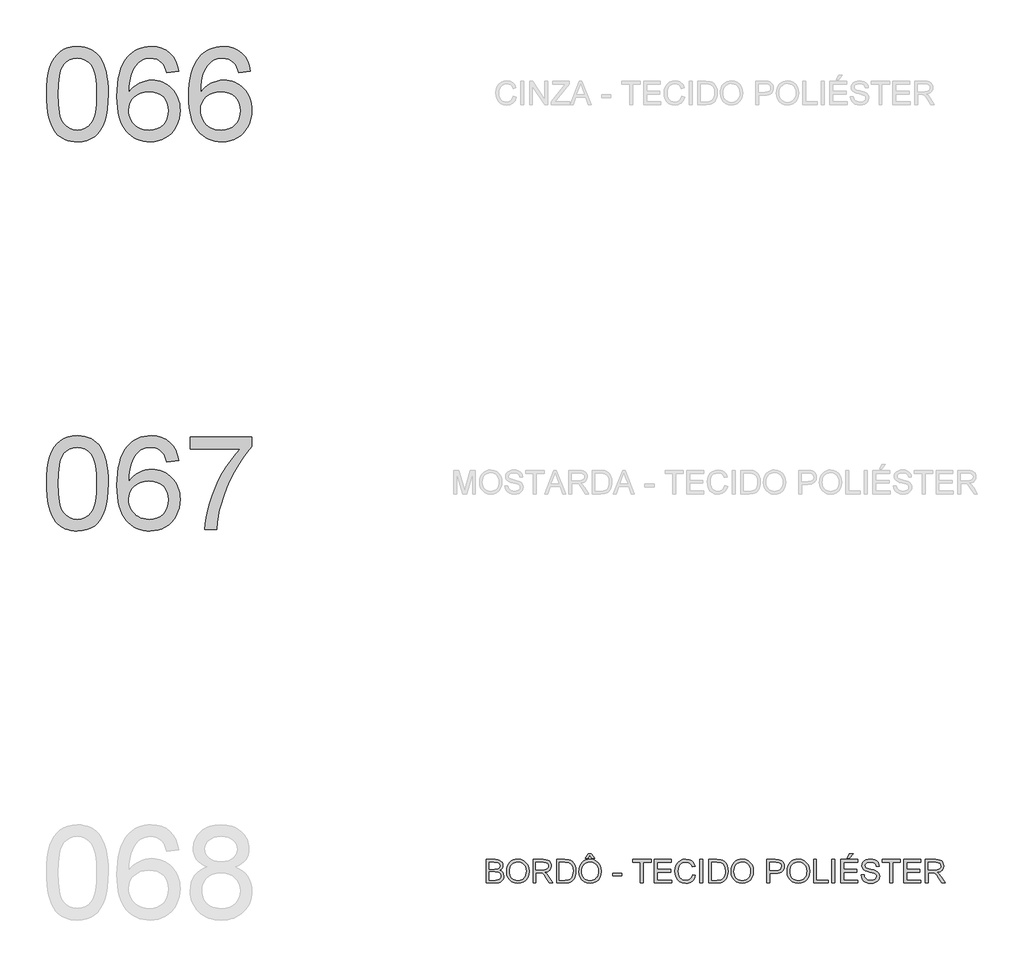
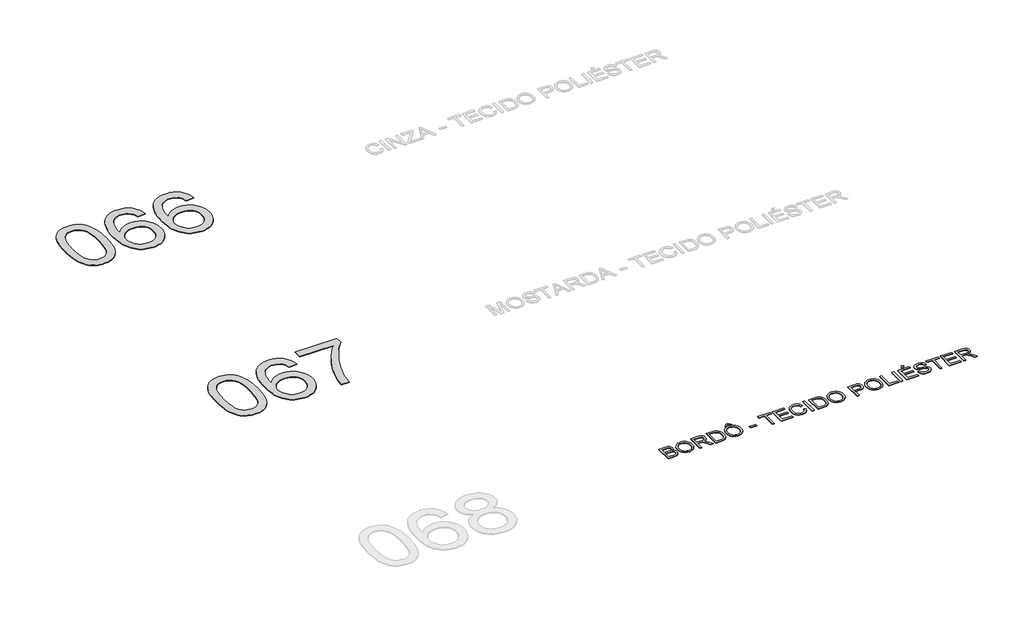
# One storey, part 35 of 67: 3 proxies.
"""IFC4 building model written with IfcOpenShell, lengths in millimetres."""

from ifc_helpers import new_model, si_unit, origin, origin_with_axes, place, context, project, spatial, polyline, outline, extrude, element, save

model = new_model("IFC4")

# Units and contexts
model_context = context("Model", 3, world=origin())
ifc_project = project(units=[si_unit("LENGTHUNIT", "METRE", prefix="MILLI")], contexts=[model_context])

# Site, building, storey
site = spatial("IfcSite", under=ifc_project)
building = spatial("IfcBuilding", under=site)
storey = spatial("IfcBuildingStorey", under=building, Name="Marelli - Linha COLAB - Planta Baixa", Elevation=0.0)

# Proxies
placement = place(None, origin())
element("IfcBuildingElementProxy", 1, Name="1200mm Arial", ObjectType="1200mm Arial", at=placement, inside=storey, context=model_context, shape_type="SweptSolid", body=[
    extrude(outline(polyline([(-181.1313792, -82395.792664), (-178.3630672, -82294.4319773), (-170.0581311, -82202.8385576), (-156.2165711, -82121.0124048), (-136.838387, -82048.953519), (-112.0063523, -81986.073289), (-81.8032405, -81931.7831035), (-46.2290516, -81886.0829627), (-5.2837855, -81848.9728664), (41.1705134, -81820.2596767), (93.271801, -81799.7502555), (151.0200772, -81787.4446027), (214.415342, -81783.3427185), (262.0560604, -81785.7707396), (307.2687576, -81793.0548031), (350.0534336, -81805.194909), (390.4100885, -81822.1910572), (427.3638349, -81843.7581391), (459.9397856, -81869.6110463), (488.1379405, -81899.7497788), (511.9582997, -81934.1743365), (532.5964796, -81972.7467637), (551.2480968, -82015.3291046), (582.5916428, -82112.5235278), (594.5662017, -82169.6831928), (603.1194581, -82235.9479371), (608.2514119, -82311.3177609), (609.9620632, -82395.792664), (607.2213424, -82496.5095573), (598.9991798, -82587.6431245), (585.2955754, -82669.1933658), (566.1105294, -82741.1602811), (541.4716328, -82804.0681023), (511.4064767, -82858.4410612), (475.9150612, -82904.2791578), (434.9973863, -82941.5823921), (388.4879051, -82970.4887199), (336.2210706, -82991.1360968), (278.1968829, -83003.524523), (214.415342, -83007.6539984), (171.7410306, -83005.8605737), (131.4211639, -83000.4802995), (93.455742, -82991.5131759), (57.8447649, -82978.9592028), (24.5882325, -82962.8183803), (-6.3138551, -82943.0907083), (-34.8614979, -82919.7761868), (-61.054696, -82892.8748159), (-89.1976686, -82850.2786794), (-113.5882449, -82802.0999336), (-134.2264248, -82748.3385785), (-151.1122084, -82688.9946142), (-164.2455956, -82624.0680406), (-173.6265865, -82553.5588577), (-179.255181, -82477.4670655), (-181.1313792, -82395.792664)]), holes=[polyline([(-30.446914, -82395.4983584), (-26.03233, -82526.4919399), (-12.7885782, -82632.5247279), (-2.8557643, -82676.1808245), (9.2843415, -82713.5967226), (23.6317393, -82744.7724225), (40.1864291, -82769.7079239), (77.5632398, -82807.884878), (119.0603289, -82835.1541309), (164.6776963, -82851.5156826), (214.415342, -82856.9695332), (264.1529878, -82851.4972885), (309.7703552, -82835.0805545), (351.2674442, -82807.7193311), (388.6442549, -82769.4136183), (405.1989447, -82744.418336), (419.5463425, -82713.2104465), (431.6864484, -82675.7899498), (441.6192622, -82632.1568459), (454.8630141, -82526.2528166), (459.277598, -82395.4983584), (455.0101669, -82267.9720648), (442.2078734, -82163.8062779), (432.6061533, -82120.4835744), (420.8707177, -82083.0009976), (407.0015665, -82051.3585475), (390.9986997, -82025.5562241), (354.2472884, -81985.5122689), (312.2719527, -81956.9094438), (265.0726927, -81939.7477487), (212.6495084, -81934.0271837), (163.1693801, -81939.067167), (118.3245649, -81954.187117), (78.1150628, -81979.3870337), (42.5408739, -82014.666917), (25.4343611, -82043.2145599), (10.6087167, -82077.2068562), (-1.9360594, -82116.6438061), (-12.199967, -82161.5254095), (-25.8851772, -82267.6225769), (-30.446914, -82395.4983584)])]), origin_with_axes(), (0.0, 0.0, 1.0), 10.0),
    extrude(outline(polyline([(1514.0688546, -82103.5472071), (1363.3843893, -82122.3827652), (1352.3111413, -82082.0812927), (1339.1041777, -82047.7027202), (1323.7634985, -82019.2470479), (1306.2891037, -81996.7142757), (1273.897094, -81969.2886729), (1237.936629, -81949.6989567), (1198.4077086, -81937.9451269), (1155.3103329, -81934.0271837), (1119.7729321, -81936.3080521), (1085.265601, -81943.1506572), (1051.7883394, -81954.554999), (1019.3411475, -81970.5210776), (989.7358439, -81996.6315022), (962.7241084, -82028.1681863), (938.305941, -82065.1311297), (916.4813416, -82107.5203326), (898.4091386, -82158.1316981), (885.2481602, -82219.7611293), (876.9984065, -82292.4086263), (873.6598774, -82376.0741891), (902.3822641, -82338.2099347), (934.1028892, -82305.5512106), (968.8217525, -82278.0980167), (1006.538854, -82255.8503531), (1046.2425184, -82238.6610669), (1086.92107, -82226.3830053), (1128.5745089, -82219.0161683), (1171.2028351, -82216.560556), (1208.1013992, -82218.2390176), (1243.6020117, -82223.2744024), (1277.7046727, -82231.6667104), (1310.409382, -82243.4159416), (1341.7161398, -82258.5220961), (1371.624946, -82276.9851737), (1400.1358007, -82298.8051745), (1427.2487037, -82323.9820986), (1452.0117605, -82351.81697), (1473.4730764, -82381.6108131), (1491.6326514, -82413.3636278), (1506.4904855, -82447.0754142), (1518.0465786, -82482.7461721), (1526.3009309, -82520.3759017), (1531.2535423, -82559.9646029), (1532.9044127, -82601.5122757), (1529.7958099, -82656.4462547), (1520.4700013, -82709.4120649), (1504.926987, -82760.4097065), (1483.166767, -82809.4391794), (1455.9618934, -82854.6702707), (1424.0849186, -82894.2727675), (1387.5358423, -82928.2466698), (1346.3146648, -82956.5919775), (1301.3043027, -82978.9316116), (1253.3876728, -82994.8884932), (1202.5647752, -83004.4626221), (1148.8356098, -83007.6539984), (1102.8342655, -83005.5386769), (1059.0080236, -82999.1927125), (1017.3568839, -82988.6161052), (977.8808466, -82973.8088549), (940.5799116, -82954.7709616), (905.4540788, -82931.5024254), (872.5033483, -82904.0032463), (841.7277202, -82872.2734242), (813.895148, -82835.6875598), (789.7735854, -82793.6202536), (769.3630325, -82746.0715057), (752.6634892, -82693.0413161), (739.6749555, -82634.5296848), (730.3974314, -82570.5366117), (724.830917, -82501.062097), (722.9754121, -82426.1061404), (725.0355513, -82342.1784618), (731.2159688, -82264.1828803), (741.5166647, -82192.1193959), (755.9376389, -82125.9880088), (774.4788915, -82065.7887188), (797.1404224, -82011.521526), (823.9222316, -81963.1864303), (854.8243192, -81920.7834319), (884.8388915, -81888.5707647), (917.3458643, -81860.6531198), (952.3452376, -81837.0304971), (989.8370114, -81817.7028968), (1029.8211858, -81802.6703188), (1072.2977607, -81791.9327631), (1117.266736, -81785.4902296), (1164.728112, -81783.3427185), (1234.1290503, -81788.6586133), (1296.944901, -81804.6062978), (1353.175664, -81831.1857719), (1402.8213392, -81868.3970358), (1444.5391575, -81914.9892904), (1476.9863495, -81969.7117372), (1500.1629152, -82032.5643761), (1514.0688546, -82103.5472071)]), holes=[polyline([(873.6598774, -82599.157831), (875.8395782, -82632.9202011), (882.3786807, -82665.9284131), (893.2771848, -82698.182467), (908.5350905, -82729.6823629), (927.4074369, -82758.9473756), (949.1492628, -82784.4967801), (973.7605683, -82806.3305766), (1001.2413533, -82824.4487648), (1031.4168739, -82838.676601), (1064.1123863, -82848.8393411), (1099.3278903, -82854.9369852), (1137.0633859, -82856.9695332), (1189.440585, -82852.7572843), (1236.5018892, -82840.1205378), (1278.2472986, -82819.0592936), (1314.6768132, -82789.5735517), (1344.2269344, -82752.8589286), (1365.3341639, -82710.1110407), (1377.9985016, -82661.3298882), (1382.2199475, -82606.5154709), (1378.0536839, -82553.8439662), (1365.5548931, -82507.0769676), (1344.7235751, -82466.214475), (1315.55973, -82431.2564884), (1279.0198508, -82403.2514715), (1236.0604308, -82383.247888), (1186.68147, -82371.2457379), (1130.8829684, -82367.2450212), (1079.2047451, -82371.2457379), (1031.5916179, -82383.247888), (988.0435867, -82403.2514715), (948.5606516, -82431.2564884), (915.7915629, -82465.7546225), (892.3850709, -82505.2375576), (878.3411758, -82549.7052938), (873.6598774, -82599.157831)])]), origin_with_axes(), (0.0, 0.0, 1.0), 10.0),
    extrude(outline(polyline([(2437.0112041, -82103.5472071), (2286.3267388, -82122.3827652), (2275.2534908, -82082.0812927), (2262.0465272, -82047.7027202), (2246.705848, -82019.2470479), (2229.2314532, -81996.7142757), (2196.8394435, -81969.2886729), (2160.8789785, -81949.6989567), (2121.3500581, -81937.9451269), (2078.2526824, -81934.0271837), (2042.7152816, -81936.3080521), (2008.2079505, -81943.1506572), (1974.7306889, -81954.554999), (1942.283497, -81970.5210776), (1912.6781934, -81996.6315022), (1885.6664579, -82028.1681863), (1861.2482905, -82065.1311297), (1839.4236911, -82107.5203326), (1821.3514881, -82158.1316981), (1808.1905097, -82219.7611293), (1799.940756, -82292.4086263), (1796.6022269, -82376.0741891), (1825.3246136, -82338.2099347), (1857.0452387, -82305.5512106), (1891.764102, -82278.0980167), (1929.4812035, -82255.8503531), (1969.1848679, -82238.6610669), (2009.8634195, -82226.3830053), (2051.5168584, -82219.0161683), (2094.1451846, -82216.560556), (2131.0437487, -82218.2390176), (2166.5443612, -82223.2744024), (2200.6470222, -82231.6667104), (2233.3517315, -82243.4159416), (2264.6584893, -82258.5220961), (2294.5672955, -82276.9851737), (2323.0781502, -82298.8051745), (2350.1910532, -82323.9820986), (2374.95411, -82351.81697), (2396.4154259, -82381.6108131), (2414.5750009, -82413.3636278), (2429.432835, -82447.0754142), (2440.9889281, -82482.7461721), (2449.2432804, -82520.3759017), (2454.1958918, -82559.9646029), (2455.8467622, -82601.5122757), (2452.7381594, -82656.4462547), (2443.4123508, -82709.4120649), (2427.8693365, -82760.4097065), (2406.1091165, -82809.4391794), (2378.9042429, -82854.6702707), (2347.0272681, -82894.2727675), (2310.4781918, -82928.2466698), (2269.2570143, -82956.5919775), (2224.2466522, -82978.9316116), (2176.3300223, -82994.8884932), (2125.5071247, -83004.4626221), (2071.7779593, -83007.6539984), (2025.776615, -83005.5386769), (1981.9503731, -82999.1927125), (1940.2992334, -82988.6161052), (1900.8231961, -82973.8088549), (1863.5222611, -82954.7709616), (1828.3964283, -82931.5024254), (1795.4456978, -82904.0032463), (1764.6700697, -82872.2734242), (1736.8374975, -82835.6875598), (1712.7159349, -82793.6202536), (1692.305382, -82746.0715057), (1675.6058387, -82693.0413161), (1662.617305, -82634.5296848), (1653.3397809, -82570.5366117), (1647.7732665, -82501.062097), (1645.9177616, -82426.1061404), (1647.9779008, -82342.1784618), (1654.1583183, -82264.1828803), (1664.4590142, -82192.1193959), (1678.8799884, -82125.9880088), (1697.421241, -82065.7887188), (1720.0827719, -82011.521526), (1746.8645811, -81963.1864303), (1777.7666687, -81920.7834319), (1807.781241, -81888.5707647), (1840.2882138, -81860.6531198), (1875.2875871, -81837.0304971), (1912.7793609, -81817.7028968), (1952.7635353, -81802.6703188), (1995.2401102, -81791.9327631), (2040.2090855, -81785.4902296), (2087.6704615, -81783.3427185), (2157.0713998, -81788.6586133), (2219.8872505, -81804.6062978), (2276.1180135, -81831.1857719), (2325.7636887, -81868.3970358), (2367.481507, -81914.9892904), (2399.928699, -81969.7117372), (2423.1052647, -82032.5643761), (2437.0112041, -82103.5472071)]), holes=[polyline([(1796.6022269, -82599.157831), (1798.7819277, -82632.9202011), (1805.3210302, -82665.9284131), (1816.2195343, -82698.182467), (1831.47744, -82729.6823629), (1850.3497864, -82758.9473756), (1872.0916123, -82784.4967801), (1896.7029178, -82806.3305766), (1924.1837028, -82824.4487648), (1954.3592234, -82838.676601), (1987.0547358, -82848.8393411), (2022.2702398, -82854.9369852), (2060.0057354, -82856.9695332), (2112.3829345, -82852.7572843), (2159.4442387, -82840.1205378), (2201.1896481, -82819.0592936), (2237.6191627, -82789.5735517), (2267.1692839, -82752.8589286), (2288.2765134, -82710.1110407), (2300.9408511, -82661.3298882), (2305.162297, -82606.5154709), (2300.9960334, -82553.8439662), (2288.4972426, -82507.0769676), (2267.6659246, -82466.214475), (2238.5020795, -82431.2564884), (2201.9622003, -82403.2514715), (2159.0027803, -82383.247888), (2109.6238195, -82371.2457379), (2053.8253179, -82367.2450212), (2002.1470946, -82371.2457379), (1954.5339674, -82383.247888), (1910.9859362, -82403.2514715), (1871.5030011, -82431.2564884), (1838.7339124, -82465.7546225), (1815.3274204, -82505.2375576), (1801.2835253, -82549.7052938), (1796.6022269, -82599.157831)])]), origin_with_axes(), (0.0, 0.0, 1.0), 10.0),
])
element("IfcBuildingElementProxy", 2, Name="1200mm Arial", ObjectType="1200mm Arial", at=placement, inside=storey, context=model_context, shape_type="SweptSolid", body=[
    extrude(outline(polyline([(-181.1313792, -87395.792664), (-178.3630672, -87294.4319773), (-170.0581311, -87202.8385576), (-156.2165711, -87121.0124048), (-136.838387, -87048.953519), (-112.0063523, -86986.073289), (-81.8032405, -86931.7831035), (-46.2290516, -86886.0829627), (-5.2837855, -86848.9728664), (41.1705134, -86820.2596767), (93.271801, -86799.7502555), (151.0200772, -86787.4446027), (214.415342, -86783.3427185), (262.0560604, -86785.7707396), (307.2687576, -86793.0548031), (350.0534336, -86805.194909), (390.4100885, -86822.1910572), (427.3638349, -86843.7581391), (459.9397856, -86869.6110463), (488.1379405, -86899.7497788), (511.9582997, -86934.1743365), (532.5964796, -86972.7467637), (551.2480968, -87015.3291046), (582.5916428, -87112.5235278), (594.5662017, -87169.6831928), (603.1194581, -87235.9479371), (608.2514119, -87311.3177609), (609.9620632, -87395.792664), (607.2213424, -87496.5095573), (598.9991798, -87587.6431245), (585.2955754, -87669.1933658), (566.1105294, -87741.1602811), (541.4716328, -87804.0681023), (511.4064767, -87858.4410612), (475.9150612, -87904.2791578), (434.9973863, -87941.5823921), (388.4879051, -87970.4887199), (336.2210706, -87991.1360968), (278.1968829, -88003.524523), (214.415342, -88007.6539984), (171.7410306, -88005.8605737), (131.4211639, -88000.4802995), (93.455742, -87991.5131759), (57.8447649, -87978.9592028), (24.5882325, -87962.8183803), (-6.3138551, -87943.0907083), (-34.8614979, -87919.7761868), (-61.054696, -87892.8748159), (-89.1976686, -87850.2786794), (-113.5882449, -87802.0999336), (-134.2264248, -87748.3385785), (-151.1122084, -87688.9946142), (-164.2455956, -87624.0680406), (-173.6265865, -87553.5588577), (-179.255181, -87477.4670655), (-181.1313792, -87395.792664)]), holes=[polyline([(-30.446914, -87395.4983584), (-26.03233, -87526.4919399), (-12.7885782, -87632.5247279), (-2.8557643, -87676.1808245), (9.2843415, -87713.5967226), (23.6317393, -87744.7724225), (40.1864291, -87769.7079239), (77.5632398, -87807.884878), (119.0603289, -87835.1541309), (164.6776963, -87851.5156826), (214.415342, -87856.9695332), (264.1529878, -87851.4972885), (309.7703552, -87835.0805545), (351.2674442, -87807.7193311), (388.6442549, -87769.4136183), (405.1989447, -87744.418336), (419.5463425, -87713.2104465), (431.6864484, -87675.7899498), (441.6192622, -87632.1568459), (454.8630141, -87526.2528166), (459.277598, -87395.4983584), (455.0101669, -87267.9720648), (442.2078734, -87163.8062779), (432.6061533, -87120.4835744), (420.8707177, -87083.0009976), (407.0015665, -87051.3585475), (390.9986997, -87025.5562241), (354.2472884, -86985.5122689), (312.2719527, -86956.9094438), (265.0726927, -86939.7477487), (212.6495084, -86934.0271837), (163.1693801, -86939.067167), (118.3245649, -86954.187117), (78.1150628, -86979.3870337), (42.5408739, -87014.666917), (25.4343611, -87043.2145599), (10.6087167, -87077.2068562), (-1.9360594, -87116.6438061), (-12.199967, -87161.5254095), (-25.8851772, -87267.6225769), (-30.446914, -87395.4983584)])]), origin_with_axes(), (0.0, 0.0, 1.0), 10.0),
    extrude(outline(polyline([(1514.0688546, -87103.5472071), (1363.3843893, -87122.3827652), (1352.3111413, -87082.0812927), (1339.1041777, -87047.7027202), (1323.7634985, -87019.2470479), (1306.2891037, -86996.7142757), (1273.897094, -86969.2886729), (1237.936629, -86949.6989567), (1198.4077086, -86937.9451269), (1155.3103329, -86934.0271837), (1119.7729321, -86936.3080521), (1085.265601, -86943.1506572), (1051.7883394, -86954.554999), (1019.3411475, -86970.5210776), (989.7358439, -86996.6315022), (962.7241084, -87028.1681863), (938.305941, -87065.1311297), (916.4813416, -87107.5203326), (898.4091386, -87158.1316981), (885.2481602, -87219.7611293), (876.9984065, -87292.4086263), (873.6598774, -87376.0741891), (902.3822641, -87338.2099347), (934.1028892, -87305.5512106), (968.8217525, -87278.0980167), (1006.538854, -87255.8503531), (1046.2425184, -87238.6610669), (1086.92107, -87226.3830053), (1128.5745089, -87219.0161683), (1171.2028351, -87216.560556), (1208.1013992, -87218.2390176), (1243.6020117, -87223.2744024), (1277.7046727, -87231.6667104), (1310.409382, -87243.4159416), (1341.7161398, -87258.5220961), (1371.624946, -87276.9851737), (1400.1358007, -87298.8051745), (1427.2487037, -87323.9820986), (1452.0117605, -87351.81697), (1473.4730764, -87381.6108131), (1491.6326514, -87413.3636278), (1506.4904855, -87447.0754142), (1518.0465786, -87482.7461721), (1526.3009309, -87520.3759017), (1531.2535423, -87559.9646029), (1532.9044127, -87601.5122757), (1529.7958099, -87656.4462547), (1520.4700013, -87709.4120649), (1504.926987, -87760.4097065), (1483.166767, -87809.4391794), (1455.9618934, -87854.6702707), (1424.0849186, -87894.2727675), (1387.5358423, -87928.2466698), (1346.3146648, -87956.5919775), (1301.3043027, -87978.9316116), (1253.3876728, -87994.8884932), (1202.5647752, -88004.4626221), (1148.8356098, -88007.6539984), (1102.8342655, -88005.5386769), (1059.0080236, -87999.1927125), (1017.3568839, -87988.6161052), (977.8808466, -87973.8088549), (940.5799116, -87954.7709616), (905.4540788, -87931.5024254), (872.5033483, -87904.0032463), (841.7277202, -87872.2734242), (813.895148, -87835.6875598), (789.7735854, -87793.6202536), (769.3630325, -87746.0715057), (752.6634892, -87693.0413161), (739.6749555, -87634.5296848), (730.3974314, -87570.5366117), (724.830917, -87501.062097), (722.9754121, -87426.1061404), (725.0355513, -87342.1784618), (731.2159688, -87264.1828803), (741.5166647, -87192.1193959), (755.9376389, -87125.9880088), (774.4788915, -87065.7887188), (797.1404224, -87011.521526), (823.9222316, -86963.1864303), (854.8243192, -86920.7834319), (884.8388915, -86888.5707647), (917.3458643, -86860.6531198), (952.3452376, -86837.0304971), (989.8370114, -86817.7028968), (1029.8211858, -86802.6703188), (1072.2977607, -86791.9327631), (1117.266736, -86785.4902296), (1164.728112, -86783.3427185), (1234.1290503, -86788.6586133), (1296.944901, -86804.6062978), (1353.175664, -86831.1857719), (1402.8213392, -86868.3970358), (1444.5391575, -86914.9892904), (1476.9863495, -86969.7117372), (1500.1629152, -87032.5643761), (1514.0688546, -87103.5472071)]), holes=[polyline([(873.6598774, -87599.157831), (875.8395782, -87632.9202011), (882.3786807, -87665.9284131), (893.2771848, -87698.182467), (908.5350905, -87729.6823629), (927.4074369, -87758.9473756), (949.1492628, -87784.4967801), (973.7605683, -87806.3305766), (1001.2413533, -87824.4487648), (1031.4168739, -87838.676601), (1064.1123863, -87848.8393411), (1099.3278903, -87854.9369852), (1137.0633859, -87856.9695332), (1189.440585, -87852.7572843), (1236.5018892, -87840.1205378), (1278.2472986, -87819.0592936), (1314.6768132, -87789.5735517), (1344.2269344, -87752.8589286), (1365.3341639, -87710.1110407), (1377.9985016, -87661.3298882), (1382.2199475, -87606.5154709), (1378.0536839, -87553.8439662), (1365.5548931, -87507.0769676), (1344.7235751, -87466.214475), (1315.55973, -87431.2564884), (1279.0198508, -87403.2514715), (1236.0604308, -87383.247888), (1186.68147, -87371.2457379), (1130.8829684, -87367.2450212), (1079.2047451, -87371.2457379), (1031.5916179, -87383.247888), (988.0435867, -87403.2514715), (948.5606516, -87431.2564884), (915.7915629, -87465.7546225), (892.3850709, -87505.2375576), (878.3411758, -87549.7052938), (873.6598774, -87599.157831)])]), origin_with_axes(), (0.0, 0.0, 1.0), 10.0),
    extrude(outline(polyline([(1664.7533198, -86952.8627418), (1664.7533198, -86802.1782766), (2455.8467622, -86802.1782766), (2455.8467622, -86924.0207934), (2399.3308907, -86990.5246611), (2343.0909307, -87066.7222194), (2287.1268822, -87152.6134682), (2231.4387452, -87248.1984076), (2179.043152, -87349.3383651), (2132.9567351, -87451.8946683), (2093.1794943, -87555.8673172), (2059.7114298, -87661.2563118), (2039.7722257, -87737.7941609), (2023.8061471, -87817.9004653), (2011.813194, -87901.5752251), (2003.7933666, -87988.8184403), (1853.1089013, -87988.8184403), (1857.845382, -87914.8189769), (1869.4060737, -87833.4986619), (1887.7909764, -87744.8574952), (1913.0000901, -87648.8954767), (1944.7391093, -87550.1651463), (1982.7137282, -87453.2190435), (2026.923947, -87358.0571684), (2077.3697656, -87264.679521), (2131.7795127, -87175.8268221), (2187.8815169, -87094.2397926), (2245.6757784, -87019.9184325), (2305.162297, -86952.8627418), (1664.7533198, -86952.8627418)])), origin_with_axes(), (0.0, 0.0, 1.0), 10.0),
])
element("IfcBuildingElementProxy", 3, Name="300mm Arial", ObjectType="300mm Arial", at=placement, inside=storey, context=model_context, shape_type="SweptSolid", body=[
    extrude(outline(polyline([(5463.5661427, -92530.5663201), (5463.5661427, -92229.1973896), (5578.5660544, -92229.1973896), (5610.1947089, -92231.4138786), (5634.8887879, -92238.0633457), (5653.8163165, -92249.3113377), (5668.1453202, -92265.3234015), (5677.1676262, -92284.1589597), (5680.1750615, -92303.8774346), (5677.6458728, -92322.0232141), (5670.0583066, -92339.0837416), (5657.3571807, -92354.0105535), (5639.4873128, -92365.7551862), (5660.8336656, -92376.9020107), (5676.6066061, -92393.8613707), (5686.3462819, -92415.5112261), (5689.5928406, -92440.7295368), (5687.3763515, -92461.7447958), (5680.7268845, -92481.2333445), (5670.8032677, -92497.8064284), (5658.7643294, -92510.0752929), (5644.0214584, -92518.9596431), (5625.9860436, -92525.3791839), (5577.6831376, -92530.5663201), (5463.5661427, -92530.5663201)]), holes=[polyline([(5501.237259, -92351.6285176), (5570.0311921, -92351.6285176), (5610.203906, -92348.3911561), (5624.2661953, -92342.8085468), (5634.3737531, -92334.4484284), (5640.4713972, -92323.4395597), (5642.5039452, -92309.9106994), (5640.6093529, -92296.7773121), (5634.9255761, -92285.3361821), (5625.7101321, -92276.4058467), (5613.2205384, -92270.8048433), (5564.8072678, -92266.8685059), (5501.237259, -92266.8685059), (5501.237259, -92351.6285176)]), polyline([(5501.237259, -92492.8952038), (5578.492478, -92492.8952038), (5606.4515096, -92491.4236758), (5630.1063219, -92483.2199073), (5645.7780949, -92466.4812765), (5650.3858169, -92454.6538704), (5651.9217243, -92441.0974188), (5650.1191025, -92425.3520694), (5644.7112371, -92411.814012), (5635.2658669, -92401.2282076), (5621.3507305, -92394.3396173), (5601.6414526, -92390.5596298), (5574.8136581, -92389.2996339), (5501.237259, -92389.2996339), (5501.237259, -92492.8952038)])]), origin_with_axes(), (0.0, 0.0, 1.0), 10.0),
    extrude(outline(polyline([(5727.2639569, -92383.8549804), (5729.7747515, -92348.5061192), (5737.3071353, -92317.213157), (5749.8611084, -92289.9760937), (5767.4366707, -92266.7949295), (5788.9807601, -92248.2858666), (5813.4403142, -92235.0651074), (5840.8153332, -92227.1326519), (5871.105817, -92224.4885001), (5910.6347374, -92229.454907), (5946.0801676, -92244.3541278), (5975.5107272, -92268.1376988), (5996.9950357, -92299.7571563), (6010.128423, -92337.68579), (6014.5062187, -92380.3968896), (6009.8984967, -92423.6782064), (5996.0753307, -92462.140269), (5973.8000759, -92493.8149088), (5943.8360874, -92516.733957), (5908.6941598, -92530.6398965), (5870.8850878, -92535.2752096), (5830.7491621, -92530.1524528), (5795.1013968, -92514.7841825), (5765.7444136, -92490.5591531), (5744.4808342, -92458.8661192), (5731.5681762, -92422.3998164), (5727.2639569, -92383.8549804)]), holes=[polyline([(5764.9350732, -92384.2228624), (5766.8181691, -92409.1974513), (5772.467457, -92431.3669401), (5781.8829368, -92450.7313286), (5795.0646086, -92467.2906169), (5811.0881687, -92480.5527628), (5829.0293138, -92490.0257242), (5848.8880437, -92495.709501), (5870.6643586, -92497.6040933), (5892.813154, -92495.6911069), (5912.9064087, -92489.9521478), (5930.9441228, -92480.3872159), (5946.9262962, -92466.9963113), (5960.0113989, -92450.0875351), (5969.3579008, -92429.9689885), (5974.965802, -92406.6406715), (5976.8351024, -92380.102584), (5973.634529, -92346.7540812), (5964.032809, -92317.9305269), (5948.2782625, -92294.358488), (5926.61921, -92276.7645316), (5900.4903913, -92265.8108452), (5871.3265462, -92262.1596164), (5850.3066887, -92263.9185522), (5830.8043444, -92269.1953595), (5812.8195134, -92277.9900385), (5796.3521956, -92290.302589), (5782.6072045, -92306.7262208), (5772.7893538, -92327.8541437), (5766.8986433, -92353.6863575), (5764.9350732, -92384.2228624)])]), origin_with_axes(), (0.0, 0.0, 1.0), 10.0),
    extrude(outline(polyline([(6066.3040036, -92530.5663201), (6066.3040036, -92229.1973896), (6196.1663479, -92229.1973896), (6231.0691522, -92231.2299376), (6256.4622069, -92237.3275817), (6275.0218536, -92248.5847708), (6289.4244337, -92266.0959537), (6298.6674688, -92287.8101885), (6301.7484805, -92311.6765329), (6296.6441178, -92341.3646099), (6281.3310298, -92365.9759154), (6269.7312506, -92376.0052983), (6255.3493639, -92384.0205273), (6218.2392676, -92394.0085235), (6239.6499997, -92410.1217548), (6270.1842053, -92448.8965171), (6320.4368859, -92530.5663201), (6276.6589285, -92530.5663201), (6237.4427078, -92468.0999573), (6209.1157941, -92426.750021), (6189.2133782, -92407.2154871), (6171.297525, -92400.0417882), (6149.4453345, -92398.717413), (6103.9751199, -92398.717413), (6103.9751199, -92530.5663201), (6066.3040036, -92530.5663201)]), holes=[polyline([(6103.9751199, -92361.0462967), (6188.2936732, -92361.0462967), (6212.5095056, -92359.7127245), (6231.2990785, -92355.7120078), (6245.4441412, -92348.7774322), (6255.7264429, -92338.6422832), (6261.9896339, -92326.3826157), (6264.0773642, -92313.0744845), (6260.0950416, -92294.6987789), (6248.1480738, -92279.8915286), (6227.5926674, -92270.1242616), (6197.7850287, -92266.8685059), (6103.9751199, -92266.8685059), (6103.9751199, -92361.0462967)])]), origin_with_axes(), (0.0, 0.0, 1.0), 10.0),
    extrude(outline(polyline([(6367.6729341, -92530.5663201), (6367.6729341, -92229.1973896), (6471.6363859, -92229.1973896), (6525.4207336, -92233.5383972), (6549.4434279, -92241.9077126), (6569.7137258, -92255.0962821), (6590.5542408, -92278.0521186), (6605.3982794, -92306.5997614), (6614.2826295, -92340.1873876), (6617.2440796, -92378.2631741), (6615.2391227, -92410.6091985), (6609.2242521, -92439.0740679), (6600.0639904, -92463.3082943), (6588.6228604, -92482.9623899), (6575.4526849, -92498.477813), (6561.1052871, -92510.2960221), (6544.6333708, -92519.0608107), (6525.0896398, -92525.4159721), (6476.639581, -92530.5663201), (6367.6729341, -92530.5663201)]), holes=[polyline([(6405.3440504, -92492.8952038), (6472.0042679, -92492.8952038), (6499.5770234, -92491.5340404), (6520.4911149, -92487.4505502), (6536.2732525, -92480.8838566), (6548.4501465, -92472.0730828), (6561.5375485, -92455.7667134), (6571.3691948, -92434.6594839), (6577.5220212, -92408.6594239), (6579.5729633, -92377.6745629), (6575.5538525, -92336.6189322), (6563.4965201, -92306.3054558), (6545.6818345, -92285.4833349), (6524.390664, -92272.9017706), (6502.7224145, -92268.3768221), (6470.9741983, -92266.8685059), (6405.3440504, -92266.8685059), (6405.3440504, -92492.8952038)])]), origin_with_axes(), (0.0, 0.0, 1.0), 10.0),
    extrude(outline(polyline([(6654.9151959, -92383.8549804), (6657.4259905, -92348.5061192), (6664.9583744, -92317.213157), (6677.5123475, -92289.9760937), (6695.0879098, -92266.7949295), (6716.6319991, -92248.2858666), (6741.0915533, -92235.0651074), (6768.4665722, -92227.1326519), (6798.757056, -92224.4885001), (6838.2859764, -92229.454907), (6873.7314066, -92244.3541278), (6903.1619662, -92268.1376988), (6924.6462748, -92299.7571563), (6937.779662, -92337.68579), (6942.1574577, -92380.3968896), (6937.5497357, -92423.6782064), (6923.7265698, -92462.140269), (6901.451315, -92493.8149088), (6871.4873265, -92516.733957), (6836.3453989, -92530.6398965), (6798.5363268, -92535.2752096), (6758.4004011, -92530.1524528), (6722.7526358, -92514.7841825), (6693.3956526, -92490.5591531), (6672.1320733, -92458.8661192), (6659.2194152, -92422.3998164), (6654.9151959, -92383.8549804)]), holes=[polyline([(6692.5863122, -92384.2228624), (6694.4694082, -92409.1974513), (6700.1186961, -92431.3669401), (6709.5341759, -92450.7313286), (6722.7158476, -92467.2906169), (6738.7394078, -92480.5527628), (6756.6805528, -92490.0257242), (6776.5392828, -92495.709501), (6798.3155976, -92497.6040933), (6820.464393, -92495.6911069), (6840.5576477, -92489.9521478), (6858.5953618, -92480.3872159), (6874.5775352, -92466.9963113), (6887.6626379, -92450.0875351), (6897.0091399, -92429.9689885), (6902.617041, -92406.6406715), (6904.4863414, -92380.102584), (6901.2857681, -92346.7540812), (6891.684048, -92317.9305269), (6875.9295016, -92294.358488), (6854.2704491, -92276.7645316), (6828.1416304, -92265.8108452), (6798.9777852, -92262.1596164), (6777.9579277, -92263.9185522), (6758.4555834, -92269.1953595), (6740.4707524, -92277.9900385), (6724.0034346, -92290.302589), (6710.2584436, -92306.7262208), (6700.4405928, -92327.8541437), (6694.5498824, -92353.6863575), (6692.5863122, -92384.2228624)])]), origin_with_axes(), (0.0, 0.0, 1.0), 10.0),
    extrude(outline(polyline([(6796.181882, -92172.6907152), (6774.9918791, -92210.3618315), (6737.3207628, -92210.3618315), (6777.3463239, -92153.855157), (6815.0174402, -92153.855157), (6859.7518908, -92210.3618315), (6822.0807745, -92210.3618315), (6796.181882, -92172.6907152)])), origin_with_axes(), (0.0, 0.0, 1.0), 10.0),
    extrude(outline(polyline([(7088.1330334, -92441.0974188), (7088.1330334, -92403.4263025), (7205.8552719, -92403.4263025), (7205.8552719, -92441.0974188), (7088.1330334, -92441.0974188)])), origin_with_axes(), (0.0, 0.0, 1.0), 10.0),
    extrude(outline(polyline([(7446.0086383, -92530.5663201), (7446.0086383, -92266.8685059), (7347.121958, -92266.8685059), (7347.121958, -92229.1973896), (7582.5664349, -92229.1973896), (7582.5664349, -92266.8685059), (7483.6797546, -92266.8685059), (7483.6797546, -92530.5663201), (7446.0086383, -92530.5663201)])), origin_with_axes(), (0.0, 0.0, 1.0), 10.0),
    extrude(outline(polyline([(7624.9464408, -92530.5663201), (7624.9464408, -92229.1973896), (7841.5553595, -92229.1973896), (7841.5553595, -92266.8685059), (7662.6175571, -92266.8685059), (7662.6175571, -92356.3374072), (7832.1375805, -92356.3374072), (7832.1375805, -92394.0085235), (7662.6175571, -92394.0085235), (7662.6175571, -92492.8952038), (7846.2642491, -92492.8952038), (7846.2642491, -92530.5663201), (7624.9464408, -92530.5663201)])), origin_with_axes(), (0.0, 0.0, 1.0), 10.0),
    extrude(outline(polyline([(8114.6709528, -92423.4390831), (8152.3420691, -92433.1511677), (8144.8878601, -92456.5783531), (8134.9596448, -92477.0486868), (8122.557423, -92494.5621691), (8107.6811949, -92509.1187997), (8090.6666526, -92520.5622291), (8071.8494885, -92528.7361071), (8051.2297027, -92533.640434), (8028.8072951, -92535.2752096), (7985.1121111, -92530.3271968), (7950.4116419, -92515.4831583), (7923.8137737, -92491.2581289), (7904.4263925, -92458.1671434), (7892.5897893, -92419.2636224), (7888.6442549, -92377.6009865), (7893.1048241, -92333.6574821), (7906.4865317, -92295.7104543), (7928.0904019, -92264.9647166), (7957.2174588, -92242.6250824), (7991.7615782, -92229.0226457), (8029.6166355, -92224.4885001), (8070.9205865, -92230.3562179), (8088.8893227, -92237.6908652), (8105.0692327, -92247.9593714), (8119.193602, -92260.8904235), (8130.9957163, -92276.2127086), (8147.6331795, -92314.0309777), (8109.9620632, -92323.0072984), (8096.9022524, -92295.5357104), (8079.0599756, -92276.6909552), (8056.2145037, -92265.7924511), (8028.1451075, -92262.1596164), (7995.789886, -92266.1879242), (7969.2104119, -92278.2728478), (7949.0412815, -92297.1451941), (7935.9170913, -92321.5357704), (7928.7158013, -92349.1085259), (7926.3153712, -92377.5274101), (7929.1572596, -92412.3290468), (7937.6829249, -92442.421794), (7952.2142637, -92466.6560205), (7973.0731728, -92483.8820949), (7998.0799514, -92494.1735937), (8025.0548987, -92497.6040933), (8056.4996123, -92492.931992), (8082.7020074, -92478.9156879), (8102.4848617, -92455.702334), (8114.6709528, -92423.4390831)])), origin_with_axes(), (0.0, 0.0, 1.0), 10.0),
    extrude(outline(polyline([(8208.8487435, -92530.5663201), (8208.8487435, -92229.1973896), (8246.5198598, -92229.1973896), (8246.5198598, -92530.5663201), (8208.8487435, -92530.5663201)])), origin_with_axes(), (0.0, 0.0, 1.0), 10.0),
    extrude(outline(polyline([(8321.8620924, -92530.5663201), (8321.8620924, -92229.1973896), (8425.8255443, -92229.1973896), (8479.609892, -92233.5383972), (8503.6325863, -92241.9077126), (8523.9028842, -92255.0962821), (8544.7433992, -92278.0521186), (8559.5874377, -92306.5997614), (8568.4717879, -92340.1873876), (8571.433238, -92378.2631741), (8569.4282811, -92410.6091985), (8563.4134105, -92439.0740679), (8554.2531488, -92463.3082943), (8542.8120187, -92482.9623899), (8529.6418433, -92498.477813), (8515.2944455, -92510.2960221), (8498.8225292, -92519.0608107), (8479.2787982, -92525.4159721), (8430.8287394, -92530.5663201), (8321.8620924, -92530.5663201)]), holes=[polyline([(8359.5332088, -92492.8952038), (8426.1934263, -92492.8952038), (8453.7661818, -92491.5340404), (8474.6802732, -92487.4505502), (8490.4624108, -92480.8838566), (8502.6393049, -92472.0730828), (8515.7267069, -92455.7667134), (8525.5583532, -92434.6594839), (8531.7111795, -92408.6594239), (8533.7621217, -92377.6745629), (8529.7430109, -92336.6189322), (8517.6856785, -92306.3054558), (8499.8709929, -92285.4833349), (8478.5798224, -92272.9017706), (8456.9115729, -92268.3768221), (8425.1633567, -92266.8685059), (8359.5332088, -92266.8685059), (8359.5332088, -92492.8952038)])]), origin_with_axes(), (0.0, 0.0, 1.0), 10.0),
    extrude(outline(polyline([(8609.1043543, -92383.8549804), (8611.6151489, -92348.5061192), (8619.1475327, -92317.213157), (8631.7015058, -92289.9760937), (8649.2770682, -92266.7949295), (8670.8211575, -92248.2858666), (8695.2807117, -92235.0651074), (8722.6557306, -92227.1326519), (8752.9462144, -92224.4885001), (8792.4751348, -92229.454907), (8827.920565, -92244.3541278), (8857.3511246, -92268.1376988), (8878.8354331, -92299.7571563), (8891.9688204, -92337.68579), (8896.3466161, -92380.3968896), (8891.7388941, -92423.6782064), (8877.9157282, -92462.140269), (8855.6404733, -92493.8149088), (8825.6764848, -92516.733957), (8790.5345573, -92530.6398965), (8752.7254852, -92535.2752096), (8712.5895595, -92530.1524528), (8676.9417942, -92514.7841825), (8647.584811, -92490.5591531), (8626.3212317, -92458.8661192), (8613.4085736, -92422.3998164), (8609.1043543, -92383.8549804)]), holes=[polyline([(8646.7754706, -92384.2228624), (8648.6585665, -92409.1974513), (8654.3078544, -92431.3669401), (8663.7233343, -92450.7313286), (8676.905006, -92467.2906169), (8692.9285661, -92480.5527628), (8710.8697112, -92490.0257242), (8730.7284411, -92495.709501), (8752.504756, -92497.6040933), (8774.6535514, -92495.6911069), (8794.7468061, -92489.9521478), (8812.7845202, -92480.3872159), (8828.7666936, -92466.9963113), (8841.8517963, -92450.0875351), (8851.1982983, -92429.9689885), (8856.8061994, -92406.6406715), (8858.6754998, -92380.102584), (8855.4749265, -92346.7540812), (8845.8732064, -92317.9305269), (8830.1186599, -92294.358488), (8808.4596075, -92276.7645316), (8782.3307888, -92265.8108452), (8753.1669436, -92262.1596164), (8732.1470861, -92263.9185522), (8712.6447418, -92269.1953595), (8694.6599108, -92277.9900385), (8678.192593, -92290.302589), (8664.4476019, -92306.7262208), (8654.6297512, -92327.8541437), (8648.7390407, -92353.6863575), (8646.7754706, -92384.2228624)])]), origin_with_axes(), (0.0, 0.0, 1.0), 10.0),
    extrude(outline(polyline([(9065.8666395, -92530.5663201), (9065.8666395, -92229.1973896), (9177.5556132, -92229.1973896), (9222.5843694, -92232.0668692), (9242.6615293, -92237.4287493), (9259.188628, -92246.1567496), (9272.4967591, -92258.6463433), (9282.9170166, -92275.2930036), (9289.6492572, -92294.9287051), (9291.8933373, -92316.3854225), (9290.3781234, -92334.8852883), (9285.8324815, -92351.9044291), (9278.2564116, -92367.4428449), (9267.6499138, -92381.5005356), (9253.0886846, -92393.1531978), (9233.6484204, -92401.476528), (9209.3291213, -92406.470526), (9180.1307872, -92408.1351921), (9103.5377558, -92408.1351921), (9103.5377558, -92530.5663201), (9065.8666395, -92530.5663201)]), holes=[polyline([(9103.5377558, -92370.4640758), (9182.3380792, -92370.4640758), (9215.7417643, -92367.005985), (9237.814684, -92356.6317127), (9250.1203368, -92339.9850525), (9254.222221, -92317.7097977), (9251.8033969, -92300.7872259), (9244.5469245, -92286.5134045), (9233.3541148, -92275.7712502), (9219.1262787, -92269.4436799), (9181.4551624, -92266.8685059), (9103.5377558, -92266.8685059), (9103.5377558, -92370.4640758)])]), origin_with_axes(), (0.0, 0.0, 1.0), 10.0),
    extrude(outline(polyline([(9329.5644536, -92383.8549804), (9332.0752483, -92348.5061192), (9339.6076321, -92317.213157), (9352.1616052, -92289.9760937), (9369.7371675, -92266.7949295), (9391.2812569, -92248.2858666), (9415.740811, -92235.0651074), (9443.11583, -92227.1326519), (9473.4063137, -92224.4885001), (9512.9352341, -92229.454907), (9548.3806644, -92244.3541278), (9577.811224, -92268.1376988), (9599.2955325, -92299.7571563), (9612.4289197, -92337.68579), (9616.8067155, -92380.3968896), (9612.1989935, -92423.6782064), (9598.3758275, -92462.140269), (9576.1005727, -92493.8149088), (9546.1365842, -92516.733957), (9510.9946566, -92530.6398965), (9473.1855846, -92535.2752096), (9433.0496589, -92530.1524528), (9397.4018935, -92514.7841825), (9368.0449103, -92490.5591531), (9346.781331, -92458.8661192), (9333.868673, -92422.3998164), (9329.5644536, -92383.8549804)]), holes=[polyline([(9367.2355699, -92384.2228624), (9369.1186659, -92409.1974513), (9374.7679538, -92431.3669401), (9384.1834336, -92450.7313286), (9397.3651053, -92467.2906169), (9413.3886655, -92480.5527628), (9431.3298106, -92490.0257242), (9451.1885405, -92495.709501), (9472.9648554, -92497.6040933), (9495.1136507, -92495.6911069), (9515.2069055, -92489.9521478), (9533.2446195, -92480.3872159), (9549.226793, -92466.9963113), (9562.3118957, -92450.0875351), (9571.6583976, -92429.9689885), (9577.2662988, -92406.6406715), (9579.1355992, -92380.102584), (9575.9350258, -92346.7540812), (9566.3333057, -92317.9305269), (9550.5787593, -92294.358488), (9528.9197068, -92276.7645316), (9502.7908881, -92265.8108452), (9473.6270429, -92262.1596164), (9452.6071854, -92263.9185522), (9433.1048412, -92269.1953595), (9415.1200101, -92277.9900385), (9398.6526923, -92290.302589), (9384.9077013, -92306.7262208), (9375.0898505, -92327.8541437), (9369.1991401, -92353.6863575), (9367.2355699, -92384.2228624)])]), origin_with_axes(), (0.0, 0.0, 1.0), 10.0),
    extrude(outline(polyline([(9668.6045004, -92530.5663201), (9668.6045004, -92229.1973896), (9706.2756167, -92229.1973896), (9706.2756167, -92492.8952038), (9856.9600819, -92492.8952038), (9856.9600819, -92530.5663201), (9668.6045004, -92530.5663201)])), origin_with_axes(), (0.0, 0.0, 1.0), 10.0),
    extrude(outline(polyline([(9904.0489773, -92530.5663201), (9904.0489773, -92229.1973896), (9941.7200936, -92229.1973896), (9941.7200936, -92530.5663201), (9904.0489773, -92530.5663201)])), origin_with_axes(), (0.0, 0.0, 1.0), 10.0),
    extrude(outline(polyline([(10017.0623262, -92530.5663201), (10017.0623262, -92229.1973896), (10233.671245, -92229.1973896), (10233.671245, -92266.8685059), (10054.7334425, -92266.8685059), (10054.7334425, -92356.3374072), (10224.2534659, -92356.3374072), (10224.2534659, -92394.0085235), (10054.7334425, -92394.0085235), (10054.7334425, -92492.8952038), (10238.3801345, -92492.8952038), (10238.3801345, -92530.5663201), (10017.0623262, -92530.5663201)])), origin_with_axes(), (0.0, 0.0, 1.0), 10.0),
    extrude(outline(polyline([(10101.8223379, -92210.3618315), (10130.0756751, -92153.855157), (10177.1645705, -92153.855157), (10130.0756751, -92210.3618315), (10101.8223379, -92210.3618315)])), origin_with_axes(), (0.0, 0.0, 1.0), 10.0),
    extrude(outline(polyline([(10280.7601404, -92426.9707502), (10318.4312567, -92426.9707502), (10322.7538701, -92447.8756446), (10330.5713625, -92464.6786547), (10342.7666507, -92478.0143771), (10360.2226513, -92488.517408), (10381.559807, -92495.332422), (10405.3985603, -92497.6040933), (10426.3862282, -92495.884245), (10444.7619338, -92490.7247), (10459.6519576, -92482.5577197), (10470.1825797, -92471.8155654), (10476.4457706, -92459.4823216), (10478.533501, -92446.5420724), (10476.9700025, -92433.932917), (10472.2795071, -92423.0344129), (10462.7513634, -92413.7361954), (10446.6749202, -92405.9279001), (10391.8237147, -92391.5437141), (10355.8172644, -92382.0247675), (10332.7786545, -92372.9656733), (10314.0258698, -92360.2921386), (10300.7361327, -92344.9330653), (10292.8174728, -92327.2195472), (10290.1779194, -92307.4826782), (10293.4428721, -92285.4189555), (10303.2377303, -92264.845155), (10319.3049764, -92247.4075484), (10341.3870932, -92234.7524077), (10367.8929909, -92227.054477), (10397.23158, -92224.4885001), (10429.0165844, -92227.1740386), (10456.8284633, -92235.2306543), (10479.6739352, -92248.4928003), (10496.5597187, -92266.7949295), (10507.2466907, -92288.9966079), (10511.4957277, -92313.9574013), (10473.8246114, -92313.9574013), (10466.9084299, -92291.4798114), (10452.4874557, -92275.2562154), (10429.9546835, -92265.4337661), (10398.703108, -92262.1596164), (10366.7157685, -92265.3969779), (10344.7716075, -92275.1090626), (10332.0796787, -92289.4012781), (10327.8490357, -92306.3790322), (10330.847274, -92320.8551887), (10339.8419888, -92332.4986539), (10361.1055681, -92342.9097143), (10401.3518584, -92353.541504), (10442.8857356, -92363.6398648), (10468.0120759, -92372.4506385), (10489.4871874, -92386.1174547), (10504.4691816, -92402.9848441), (10513.2707584, -92422.868866), (10516.2046173, -92445.5855792), (10512.8293, -92468.8081301), (10502.7033481, -92490.6511236), (10486.2406288, -92509.4498935), (10463.8550094, -92523.539774), (10436.9352444, -92532.3413507), (10406.8700883, -92535.2752096), (10369.9623271, -92532.1114244), (10339.5844714, -92522.620069), (10315.3870332, -92506.764355), (10297.0205246, -92484.5074943), (10285.2299066, -92457.3945912), (10280.7601404, -92426.9707502)])), origin_with_axes(), (0.0, 0.0, 1.0), 10.0),
    extrude(outline(polyline([(10648.0535243, -92530.5663201), (10648.0535243, -92266.8685059), (10549.166844, -92266.8685059), (10549.166844, -92229.1973896), (10784.611321, -92229.1973896), (10784.611321, -92266.8685059), (10685.7246407, -92266.8685059), (10685.7246407, -92530.5663201), (10648.0535243, -92530.5663201)])), origin_with_axes(), (0.0, 0.0, 1.0), 10.0),
    extrude(outline(polyline([(10826.9913268, -92530.5663201), (10826.9913268, -92229.1973896), (11043.6002456, -92229.1973896), (11043.6002456, -92266.8685059), (10864.6624431, -92266.8685059), (10864.6624431, -92356.3374072), (11034.1824665, -92356.3374072), (11034.1824665, -92394.0085235), (10864.6624431, -92394.0085235), (10864.6624431, -92492.8952038), (11048.3091351, -92492.8952038), (11048.3091351, -92530.5663201), (10826.9913268, -92530.5663201)])), origin_with_axes(), (0.0, 0.0, 1.0), 10.0),
    extrude(outline(polyline([(11104.8158096, -92530.5663201), (11104.8158096, -92229.1973896), (11234.6781539, -92229.1973896), (11269.5809581, -92231.2299376), (11294.9740129, -92237.3275817), (11313.5336595, -92248.5847708), (11327.9362396, -92266.0959537), (11337.1792748, -92287.8101885), (11340.2602865, -92311.6765329), (11335.1559238, -92341.3646099), (11319.8428357, -92365.9759154), (11308.2430566, -92376.0052983), (11293.8611698, -92384.0205273), (11256.7510736, -92394.0085235), (11278.1618057, -92410.1217548), (11308.6960113, -92448.8965171), (11358.9486918, -92530.5663201), (11315.1707344, -92530.5663201), (11275.9545137, -92468.0999573), (11247.6276001, -92426.750021), (11227.7251841, -92407.2154871), (11209.809331, -92400.0417882), (11187.9571405, -92398.717413), (11142.4869259, -92398.717413), (11142.4869259, -92530.5663201), (11104.8158096, -92530.5663201)]), holes=[polyline([(11142.4869259, -92361.0462967), (11226.8054792, -92361.0462967), (11251.0213115, -92359.7127245), (11269.8108844, -92355.7120078), (11283.9559471, -92348.7774322), (11294.2382489, -92338.6422832), (11300.5014398, -92326.3826157), (11302.5891702, -92313.0744845), (11298.6068476, -92294.6987789), (11286.6598798, -92279.8915286), (11266.1044733, -92270.1242616), (11236.2968346, -92266.8685059), (11142.4869259, -92266.8685059), (11142.4869259, -92361.0462967)])]), origin_with_axes(), (0.0, 0.0, 1.0), 10.0),
])

save(model, "model.ifc")
